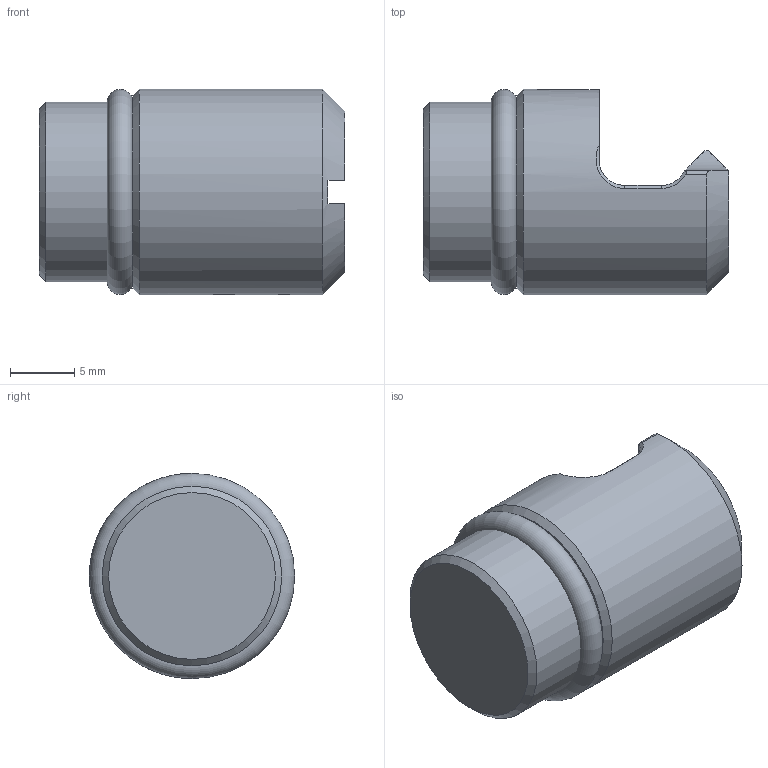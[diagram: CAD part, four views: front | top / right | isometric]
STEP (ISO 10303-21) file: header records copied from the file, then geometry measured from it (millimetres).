
FILE_DESCRIPTION (( 'STEP AP214' ), '1' );
FILE_NAME ('6921884036200.STEP', '2020-11-27T07:56:12', ( '' ), ( '' ), 'SwSTEP 2.0', 'SolidWorks 2018', '' );
FILE_SCHEMA (( 'AUTOMOTIVE_DESIGN' ));
Length unit declared in the file: millimetre
Products named in the file (1): 6921884036200
Bounding box: 23.8 x 16 x 16 mm (x, y, z)
Volume: 3610.2 mm3; surface area: 1778.1 mm2
Topology: 2 solids, 2 shells, 38 faces, 94 edges, 59 vertices
Faces by surface type: plane 18, cylinder 10, cone 4, bspline 4, torus 2
Full cylindrical faces by diameter (mm): 12 x1, 14 x1, 16 x1
Entity records: 1271 total; most frequent: CARTESIAN_POINT 434, ORIENTED_EDGE 166, DIRECTION 134, EDGE_CURVE 83, VERTEX_POINT 56, AXIS2_PLACEMENT_3D 49, EDGE_LOOP 45, FACE_OUTER_BOUND 41
